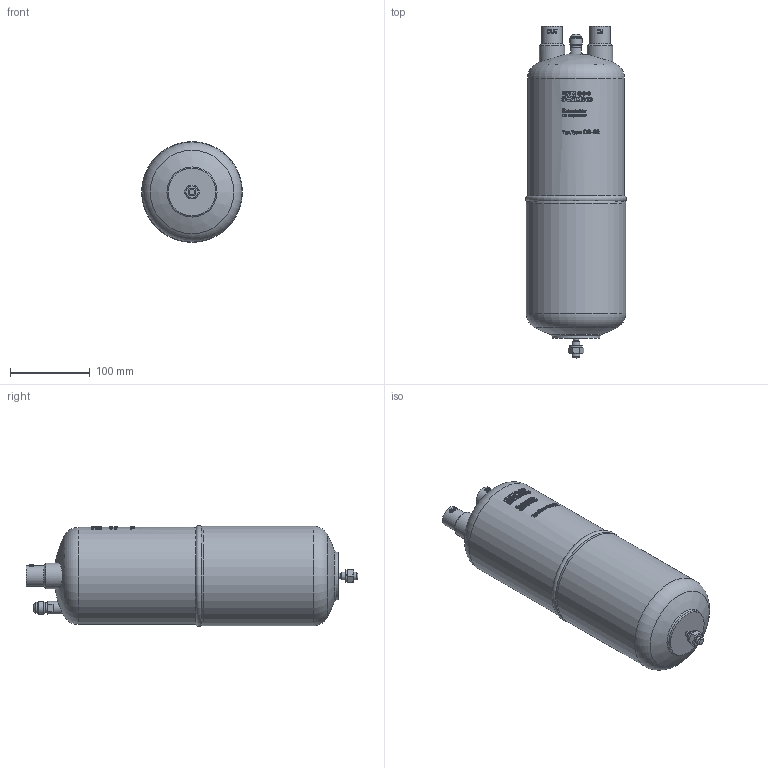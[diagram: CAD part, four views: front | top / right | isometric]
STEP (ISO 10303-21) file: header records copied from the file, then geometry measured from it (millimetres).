
FILE_DESCRIPTION(/* description */ (''),/* implementation_level */ '2;1');
FILE_NAME(/* name */ 'P:\OS\OS-22\OS-22.stp',/* time_stamp */ '2017-10-04T07:58:36+02:00',/* author */ ('neufeld'),/* organization */ (''),/* preprocessor_version */ 'ST-DEVELOPER v16.1',/* originating_system */ 'Autodesk Inventor 2016',/* authorisation */ '');
FILE_SCHEMA (('AUTOMOTIVE_DESIGN { 1 0 10303 214 3 1 1 }'));
Length unit declared in the file: millimetre
Products named in the file (2): OS-22; OS-22_1
Assembly tree (1 placements, depth 2):
  OS-22_1
    OS-22
Bounding box: 126.76 x 417.3 x 126.76 mm (x, y, z)
Volume: 4089505.4 mm3; surface area: 163530.8 mm2
Topology: 1 solids, 1 shells, 985 faces, 2669 edges, 1773 vertices
Faces by surface type: plane 510, bspline 361, cylinder 99, cone 9, torus 5, sphere 1
Full cylindrical faces by diameter (mm): 7 x1, 7.2 x1, 10 x2, 12.9 x1, 13.5 x1, 15.7 x1, 16 x1, 22.4 x2, 26 x2, 32 x2, 60 x1, 122 x1, 125 x1
Entity records: 38381 total; most frequent: CARTESIAN_POINT 15575, ORIENTED_EDGE 5250, DIRECTION 3822, EDGE_CURVE 2625, VERTEX_POINT 1762, AXIS2_PLACEMENT_3D 1306, LINE 1210, VECTOR 1210
